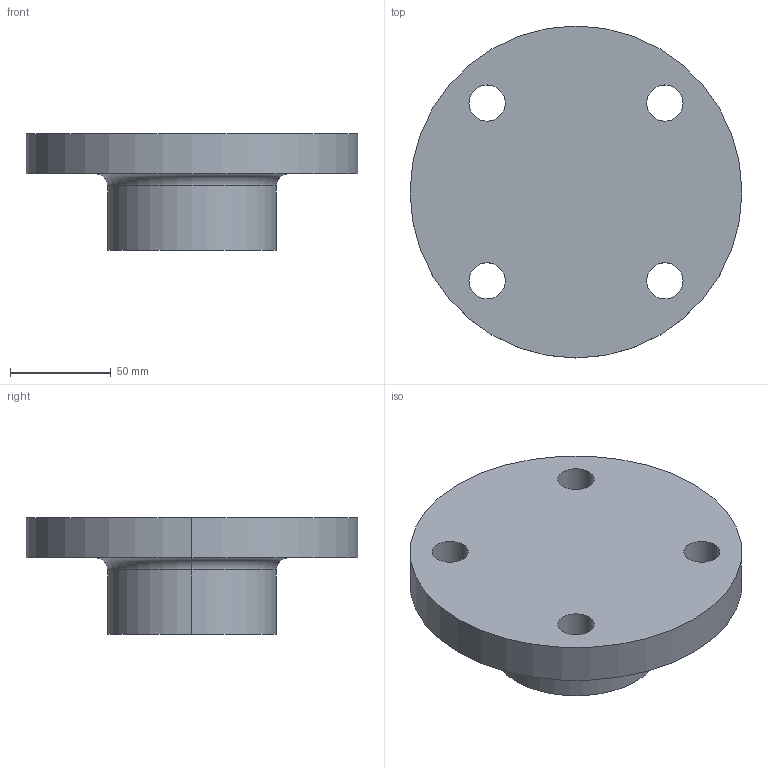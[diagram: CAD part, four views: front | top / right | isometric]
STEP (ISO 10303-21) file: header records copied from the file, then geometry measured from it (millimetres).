
FILE_DESCRIPTION (( 'STEP AP214' ), '1' );
FILE_NAME ('PN40 DN50 Type 21(i) - Type A Face.STEP', '2018-12-30T04:27:49', ( '' ), ( '' ), 'SwSTEP 2.0', 'SolidWorks 2019', '' );
FILE_SCHEMA (( 'AUTOMOTIVE_DESIGN' ));
Length unit declared in the file: millimetre
Products named in the file (1): PN40 DN50 Type 21(i) - Type A Face
Bounding box: 165 x 165 x 58 mm (x, y, z)
Volume: 619982.8 mm3; surface area: 64984.7 mm2
Topology: 1 solids, 1 shells, 17 faces, 40 edges, 26 vertices
Faces by surface type: cylinder 12, plane 3, torus 2
Entity records: 556 total; most frequent: DIRECTION 104, CARTESIAN_POINT 84, ORIENTED_EDGE 80, AXIS2_PLACEMENT_3D 46, EDGE_CURVE 40, CIRCLE 28, VERTEX_POINT 26, EDGE_LOOP 26
